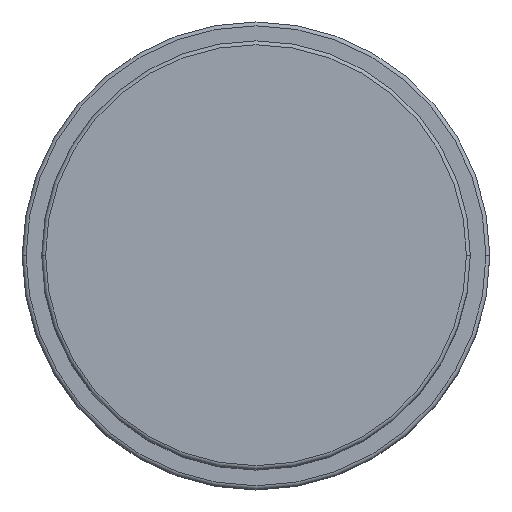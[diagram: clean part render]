
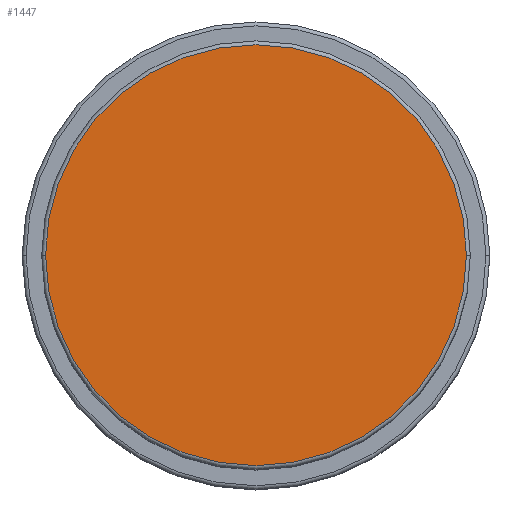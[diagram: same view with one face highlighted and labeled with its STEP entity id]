
A CAD part, top view. The second image highlights one B-rep face of the part: STEP entity #1447.
In plain terms, the highlighted planar face has unit normal (0, 0, 1).
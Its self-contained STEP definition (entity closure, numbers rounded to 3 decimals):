
#41 = VERTEX_POINT ( 'NONE', #188 ) ;
#123 = DIRECTION ( 'NONE',  ( 1., 0., 0. ) ) ;
#188 = CARTESIAN_POINT ( 'NONE',  ( -27., 0., 71. ) ) ;
#197 = DIRECTION ( 'NONE',  ( 0., 0., 1. ) ) ;
#249 = CARTESIAN_POINT ( 'NONE',  ( 0., 0., 71. ) ) ;
#475 = EDGE_CURVE ( 'NONE', #1077, #41, #940, .T. ) ;
#489 = CARTESIAN_POINT ( 'NONE',  ( 0., 0., 71. ) ) ;
#750 = DIRECTION ( 'NONE',  ( 1., 0., 0. ) ) ;
#890 = ORIENTED_EDGE ( 'NONE', *, *, #1579, .T. ) ;
#920 = CARTESIAN_POINT ( 'NONE',  ( 0., 0., 71. ) ) ;
#940 = CIRCLE ( 'NONE', #1401, 27. ) ;
#964 = FACE_OUTER_BOUND ( 'NONE', #1583, .T. ) ;
#1057 = DIRECTION ( 'NONE',  ( 0., 0., 1. ) ) ;
#1065 = AXIS2_PLACEMENT_3D ( 'NONE', #489, #197, #750 ) ;
#1077 = VERTEX_POINT ( 'NONE', #1602 ) ;
#1106 = CIRCLE ( 'NONE', #1652, 27. ) ;
#1312 = DIRECTION ( 'NONE',  ( 0., 0., 1. ) ) ;
#1323 = DIRECTION ( 'NONE',  ( 1., 0., 0. ) ) ;
#1375 = ORIENTED_EDGE ( 'NONE', *, *, #475, .T. ) ;
#1401 = AXIS2_PLACEMENT_3D ( 'NONE', #249, #1057, #123 ) ;
#1447 = ADVANCED_FACE ( 'NONE', ( #964 ), #1687, .T. ) ;
#1579 = EDGE_CURVE ( 'NONE', #41, #1077, #1106, .T. ) ;
#1583 = EDGE_LOOP ( 'NONE', ( #1375, #890 ) ) ;
#1602 = CARTESIAN_POINT ( 'NONE',  ( 27., 0., 71. ) ) ;
#1652 = AXIS2_PLACEMENT_3D ( 'NONE', #920, #1312, #1323 ) ;
#1687 = PLANE ( 'NONE',  #1065 ) ;
